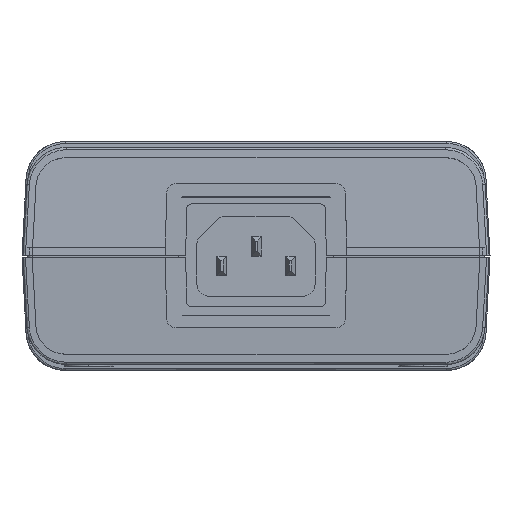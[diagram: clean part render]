
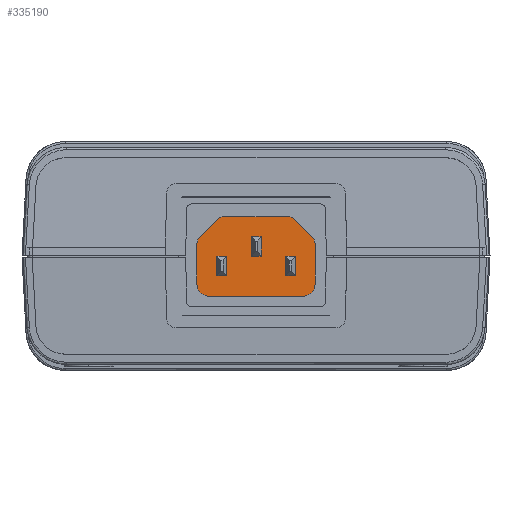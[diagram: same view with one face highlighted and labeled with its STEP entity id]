
A CAD part, left-side view. The second image highlights one B-rep face of the part: STEP entity #335190.
In plain terms, the highlighted planar face has unit normal (-1, 0, 0).
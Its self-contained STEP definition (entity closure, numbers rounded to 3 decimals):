
#333080=CARTESIAN_POINT('',(67.337,92.479,
12.875));
#333090=DIRECTION('',(-1.,0.,0.));
#333100=DIRECTION('',(0.,-1.,0.));
#333110=AXIS2_PLACEMENT_3D('',#333080,#333090,#333100);
#333120=PLANE('',#333110);
#333130=CARTESIAN_POINT('',(67.337,91.479,
18.05));
#333140=DIRECTION('',(0.,0.,1.));
#333150=VECTOR('',#333140,1.);
#333160=LINE('',#333130,#333150);
#333170=CARTESIAN_POINT('',(67.337,91.479,
14.1));
#333180=VERTEX_POINT('',#333170);
#333190=CARTESIAN_POINT('',(67.337,91.479,
18.1));
#333200=VERTEX_POINT('',#333190);
#333210=EDGE_CURVE('',#333180,#333200,#333160,.T.);
#333220=ORIENTED_EDGE('',*,*,#333210,.F.);
#333230=CARTESIAN_POINT('',(67.337,99.529,
18.1));
#333240=DIRECTION('',(0.,-1.,0.));
#333250=VECTOR('',#333240,1.);
#333260=LINE('',#333230,#333250);
#333270=CARTESIAN_POINT('',(67.337,93.479,
18.1));
#333280=VERTEX_POINT('',#333270);
#333290=EDGE_CURVE('',#333280,#333200,#333260,.T.);
#333300=ORIENTED_EDGE('',*,*,#333290,.T.);
#333310=CARTESIAN_POINT('',(67.337,93.479,
18.05));
#333320=DIRECTION('',(0.,0.,1.));
#333330=VECTOR('',#333320,1.);
#333340=LINE('',#333310,#333330);
#333350=CARTESIAN_POINT('',(67.337,93.479,
14.1));
#333360=VERTEX_POINT('',#333350);
#333370=EDGE_CURVE('',#333360,#333280,#333340,.T.);
#333380=ORIENTED_EDGE('',*,*,#333370,.T.);
#333390=CARTESIAN_POINT('',(67.337,99.529,
14.1));
#333400=DIRECTION('',(0.,-1.,0.));
#333410=VECTOR('',#333400,1.);
#333420=LINE('',#333390,#333410);
#333430=EDGE_CURVE('',#333360,#333180,#333420,.T.);
#333440=ORIENTED_EDGE('',*,*,#333430,.F.);
#333450=EDGE_LOOP('',(#333440,#333380,#333300,#333220));
#333460=FACE_BOUND('',#333450,.T.);
#333470=CARTESIAN_POINT('',(67.337,109.729,
20.626));
#333480=DIRECTION('',(-1.,0.,0.));
#333490=DIRECTION('',(0.,-1.,0.));
#333500=AXIS2_PLACEMENT_3D('',#333470,#333480,#333490);
#333510=CIRCLE('',#333500,1.8);
#333520=CARTESIAN_POINT('',(67.337,111.024,
21.877));
#333530=VERTEX_POINT('',#333520);
#333540=CARTESIAN_POINT('',(67.337,111.529,
20.626));
#333550=VERTEX_POINT('',#333540);
#333560=EDGE_CURVE('',#333530,#333550,#333510,.T.);
#333570=ORIENTED_EDGE('',*,*,#333560,.T.);
#333580=CARTESIAN_POINT('',(67.337,114.72,
18.05));
#333590=DIRECTION('',(0.,-0.695,
0.719));
#333600=VECTOR('',#333590,1.);
#333610=LINE('',#333580,#333600);
#333620=CARTESIAN_POINT('',(67.337,107.428,
25.6));
#333630=VERTEX_POINT('',#333620);
#333640=EDGE_CURVE('',#333530,#333630,#333610,.T.);
#333650=ORIENTED_EDGE('',*,*,#333640,.F.);
#333660=CARTESIAN_POINT('',(67.337,106.133,
24.35));
#333670=DIRECTION('',(1.,0.,0.));
#333680=DIRECTION('',(0.,0.719,
0.695));
#333690=AXIS2_PLACEMENT_3D('',#333660,#333670,#333680);
#333700=CIRCLE('',#333690,1.8);
#333710=CARTESIAN_POINT('',(67.337,106.133,
26.15));
#333720=VERTEX_POINT('',#333710);
#333730=EDGE_CURVE('',#333630,#333720,#333700,.T.);
#333740=ORIENTED_EDGE('',*,*,#333730,.F.);
#333750=CARTESIAN_POINT('',(67.337,99.529,
26.15));
#333760=DIRECTION('',(0.,-1.,0.));
#333770=VECTOR('',#333760,1.);
#333780=LINE('',#333750,#333770);
#333790=CARTESIAN_POINT('',(67.337,92.925,
26.15));
#333800=VERTEX_POINT('',#333790);
#333810=EDGE_CURVE('',#333720,#333800,#333780,.T.);
#333820=ORIENTED_EDGE('',*,*,#333810,.F.);
#333830=CARTESIAN_POINT('',(67.337,92.925,
24.35));
#333840=DIRECTION('',(1.,0.,0.));
#333850=DIRECTION('',(0.,0.,1.));
#333860=AXIS2_PLACEMENT_3D('',#333830,#333840,#333850);
#333870=CIRCLE('',#333860,1.8);
#333880=CARTESIAN_POINT('',(67.337,91.631,
25.6));
#333890=VERTEX_POINT('',#333880);
#333900=EDGE_CURVE('',#333800,#333890,#333870,.T.);
#333910=ORIENTED_EDGE('',*,*,#333900,.F.);
#333920=CARTESIAN_POINT('',(67.337,84.339,
18.05));
#333930=DIRECTION('',(0.,0.695,
0.719));
#333940=VECTOR('',#333930,1.);
#333950=LINE('',#333920,#333940);
#333960=CARTESIAN_POINT('',(67.337,88.035,
21.877));
#333970=VERTEX_POINT('',#333960);
#333980=EDGE_CURVE('',#333970,#333890,#333950,.T.);
#333990=ORIENTED_EDGE('',*,*,#333980,.T.);
#334000=CARTESIAN_POINT('',(67.337,89.329,
20.626));
#334010=DIRECTION('',(1.,0.,0.));
#334020=DIRECTION('',(0.,1.,0.));
#334030=AXIS2_PLACEMENT_3D('',#334000,#334010,#334020);
#334040=CIRCLE('',#334030,1.8);
#334050=CARTESIAN_POINT('',(67.337,87.529,
20.626));
#334060=VERTEX_POINT('',#334050);
#334070=EDGE_CURVE('',#333970,#334060,#334040,.T.);
#334080=ORIENTED_EDGE('',*,*,#334070,.F.);
#334090=CARTESIAN_POINT('',(67.337,87.529,
18.05));
#334100=DIRECTION('',(0.,0.,1.));
#334110=VECTOR('',#334100,1.);
#334120=LINE('',#334090,#334110);
#334130=CARTESIAN_POINT('',(67.337,87.529,12.45));
#334140=VERTEX_POINT('',#334130);
#334150=EDGE_CURVE('',#334140,#334060,#334120,.T.);
#334160=ORIENTED_EDGE('',*,*,#334150,.T.);
#334170=CARTESIAN_POINT('',(67.337,90.029,12.45));
#334180=DIRECTION('',(-1.,0.,0.));
#334190=DIRECTION('',(0.,-1.,0.));
#334200=AXIS2_PLACEMENT_3D('',#334170,#334180,#334190);
#334210=CIRCLE('',#334200,2.5);
#334220=CARTESIAN_POINT('',(67.337,90.029,
9.95));
#334230=VERTEX_POINT('',#334220);
#334240=EDGE_CURVE('',#334230,#334140,#334210,.T.);
#334250=ORIENTED_EDGE('',*,*,#334240,.T.);
#334260=CARTESIAN_POINT('',(67.337,99.529,
9.95));
#334270=DIRECTION('',(0.,-1.,0.));
#334280=VECTOR('',#334270,1.);
#334290=LINE('',#334260,#334280);
#334300=CARTESIAN_POINT('',(67.337,109.029,
9.95));
#334310=VERTEX_POINT('',#334300);
#334320=EDGE_CURVE('',#334310,#334230,#334290,.T.);
#334330=ORIENTED_EDGE('',*,*,#334320,.T.);
#334340=CARTESIAN_POINT('',(67.337,109.029,12.45));
#334350=DIRECTION('',(-1.,0.,0.));
#334360=DIRECTION('',(0.,-1.,0.));
#334370=AXIS2_PLACEMENT_3D('',#334340,#334350,#334360);
#334380=CIRCLE('',#334370,2.5);
#334390=CARTESIAN_POINT('',(67.337,111.529,12.45));
#334400=VERTEX_POINT('',#334390);
#334410=EDGE_CURVE('',#334400,#334310,#334380,.T.);
#334420=ORIENTED_EDGE('',*,*,#334410,.T.);
#334430=CARTESIAN_POINT('',(67.337,111.529,
18.05));
#334440=DIRECTION('',(0.,0.,1.));
#334450=VECTOR('',#334440,1.);
#334460=LINE('',#334430,#334450);
#334470=EDGE_CURVE('',#334400,#333550,#334460,.T.);
#334480=ORIENTED_EDGE('',*,*,#334470,.F.);
#334490=EDGE_LOOP('',(#334480,#334420,#334330,#334250,#334160,#334080,
#333990,#333910,#333820,#333740,#333650,#333570));
#334500=FACE_OUTER_BOUND('',#334490,.T.);
#334510=CARTESIAN_POINT('',(67.337,99.529,
18.1));
#334520=DIRECTION('',(0.,-1.,0.));
#334530=VECTOR('',#334520,1.);
#334540=LINE('',#334510,#334530);
#334550=CARTESIAN_POINT('',(67.337,100.479,
18.1));
#334560=VERTEX_POINT('',#334550);
#334570=CARTESIAN_POINT('',(67.337,98.479,
18.1));
#334580=VERTEX_POINT('',#334570);
#334590=EDGE_CURVE('',#334560,#334580,#334540,.T.);
#334600=ORIENTED_EDGE('',*,*,#334590,.F.);
#334610=CARTESIAN_POINT('',(67.337,98.479,
18.05));
#334620=DIRECTION('',(0.,0.,1.));
#334630=VECTOR('',#334620,1.);
#334640=LINE('',#334610,#334630);
#334650=CARTESIAN_POINT('',(67.337,98.479,
22.1));
#334660=VERTEX_POINT('',#334650);
#334670=EDGE_CURVE('',#334580,#334660,#334640,.T.);
#334680=ORIENTED_EDGE('',*,*,#334670,.F.);
#334690=CARTESIAN_POINT('',(67.337,99.529,22.1));
#334700=DIRECTION('',(0.,-1.,0.));
#334710=VECTOR('',#334700,1.);
#334720=LINE('',#334690,#334710);
#334730=CARTESIAN_POINT('',(67.337,100.479,
22.1));
#334740=VERTEX_POINT('',#334730);
#334750=EDGE_CURVE('',#334740,#334660,#334720,.T.);
#334760=ORIENTED_EDGE('',*,*,#334750,.T.);
#334770=CARTESIAN_POINT('',(67.337,100.479,
18.05));
#334780=DIRECTION('',(0.,0.,1.));
#334790=VECTOR('',#334780,1.);
#334800=LINE('',#334770,#334790);
#334810=EDGE_CURVE('',#334560,#334740,#334800,.T.);
#334820=ORIENTED_EDGE('',*,*,#334810,.T.);
#334830=EDGE_LOOP('',(#334820,#334760,#334680,#334600));
#334840=FACE_BOUND('',#334830,.T.);
#334850=CARTESIAN_POINT('',(67.337,99.529,
14.1));
#334860=DIRECTION('',(0.,-1.,0.));
#334870=VECTOR('',#334860,1.);
#334880=LINE('',#334850,#334870);
#334890=CARTESIAN_POINT('',(67.337,107.479,
14.1));
#334900=VERTEX_POINT('',#334890);
#334910=CARTESIAN_POINT('',(67.337,105.479,
14.1));
#334920=VERTEX_POINT('',#334910);
#334930=EDGE_CURVE('',#334900,#334920,#334880,.T.);
#334940=ORIENTED_EDGE('',*,*,#334930,.F.);
#334950=CARTESIAN_POINT('',(67.337,105.479,
18.05));
#334960=DIRECTION('',(0.,0.,1.));
#334970=VECTOR('',#334960,1.);
#334980=LINE('',#334950,#334970);
#334990=CARTESIAN_POINT('',(67.337,105.479,
18.1));
#335000=VERTEX_POINT('',#334990);
#335010=EDGE_CURVE('',#334920,#335000,#334980,.T.);
#335020=ORIENTED_EDGE('',*,*,#335010,.F.);
#335030=CARTESIAN_POINT('',(67.337,99.529,
18.1));
#335040=DIRECTION('',(0.,-1.,0.));
#335050=VECTOR('',#335040,1.);
#335060=LINE('',#335030,#335050);
#335070=CARTESIAN_POINT('',(67.337,107.479,
18.1));
#335080=VERTEX_POINT('',#335070);
#335090=EDGE_CURVE('',#335080,#335000,#335060,.T.);
#335100=ORIENTED_EDGE('',*,*,#335090,.T.);
#335110=CARTESIAN_POINT('',(67.337,107.479,
18.05));
#335120=DIRECTION('',(0.,0.,1.));
#335130=VECTOR('',#335120,1.);
#335140=LINE('',#335110,#335130);
#335150=EDGE_CURVE('',#334900,#335080,#335140,.T.);
#335160=ORIENTED_EDGE('',*,*,#335150,.T.);
#335170=EDGE_LOOP('',(#335160,#335100,#335020,#334940));
#335180=FACE_BOUND('',#335170,.T.);
#335190=ADVANCED_FACE('',(#333460,#334500,#334840,#335180),#333120,.T.);
